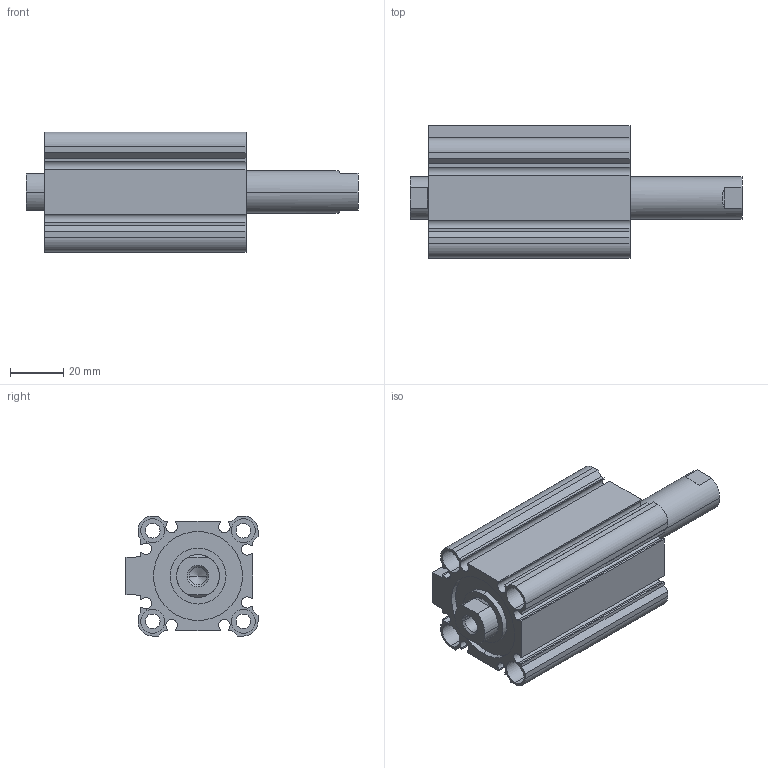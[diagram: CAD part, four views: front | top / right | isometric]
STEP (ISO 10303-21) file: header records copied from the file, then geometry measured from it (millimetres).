
FILE_DESCRIPTION (( 'STEP AP203' ), '1' );
FILE_NAME ('CCMB32-35F-P.STEP', '2020-08-05T11:15:01', ( '' ), ( '' ), 'SwSTEP 2.0', 'SolidWorks 2019', '' );
FILE_SCHEMA (( 'CONFIG_CONTROL_DESIGN' ));
Length unit declared in the file: millimetre
Products named in the file (1): CCMB32-35F-P
Bounding box: 124.5 x 49.5 x 45 mm (x, y, z)
Volume: 108720.2 mm3; surface area: 46082.5 mm2
Topology: 2 solids, 2 shells, 164 faces, 414 edges, 270 vertices
Faces by surface type: plane 78, cylinder 74, cone 12
Entity records: 5029 total; most frequent: DIRECTION 896, CARTESIAN_POINT 857, ORIENTED_EDGE 820, EDGE_CURVE 410, AXIS2_PLACEMENT_3D 325, VERTEX_POINT 270, VECTOR 246, LINE 246
